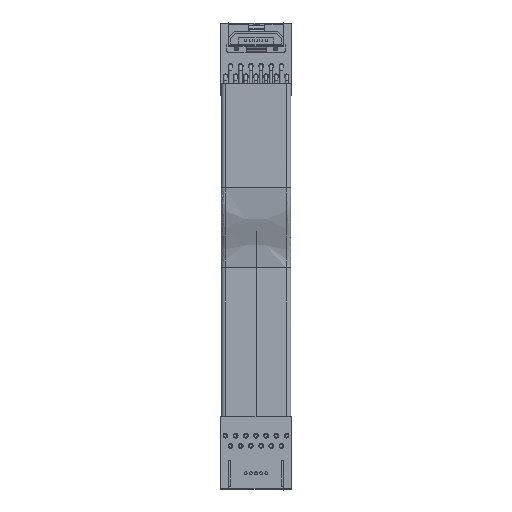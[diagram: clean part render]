
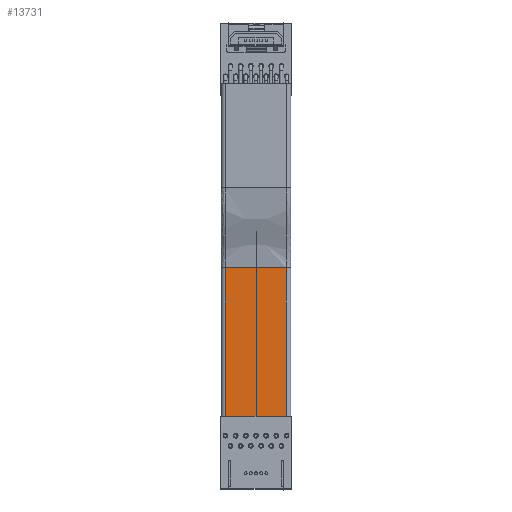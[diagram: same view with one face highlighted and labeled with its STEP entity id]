
A CAD part, top view. The second image highlights one B-rep face of the part: STEP entity #13731.
In plain terms, the highlighted free-form (B-spline) face has degree [3, 1] with [7, 2] control points.
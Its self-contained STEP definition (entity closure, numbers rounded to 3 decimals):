
#12067 = VERTEX_POINT('',#12068);
#12068 = CARTESIAN_POINT('',(0.569,22.977,
    -1.457));
#12150 = VERTEX_POINT('',#12151);
#12151 = CARTESIAN_POINT('',(8.189,22.977,
    -1.457));
#12163 = EDGE_CURVE('',#12067,#12150,#12164,.T.);
#12164 = LINE('',#12165,#12166);
#12165 = CARTESIAN_POINT('',(4.379,22.977,
    -1.457));
#12166 = VECTOR('',#12167,1.);
#12167 = DIRECTION('',(1.,0.,0.));
#13615 = VERTEX_POINT('',#13616);
#13616 = CARTESIAN_POINT('',(0.569,43.,-1.457));
#13623 = EDGE_CURVE('',#13615,#13624,#13626,.T.);
#13624 = VERTEX_POINT('',#13625);
#13625 = CARTESIAN_POINT('',(8.189,43.,-1.457));
#13626 = ( BOUNDED_CURVE() B_SPLINE_CURVE(3,(#13627,#13628,#13629,#13630
    ,#13631,#13632,#13633),.UNSPECIFIED.,.F.,.F.) 
B_SPLINE_CURVE_WITH_KNOTS((4,3,4),(0.505,0.943,1.),
.UNSPECIFIED.) CURVE() GEOMETRIC_REPRESENTATION_ITEM() 
RATIONAL_B_SPLINE_CURVE((1.,1.,1.,1.,0.333,0.333,1.)) 
REPRESENTATION_ITEM('') );
#13627 = CARTESIAN_POINT('',(0.569,43.,-1.457));
#13628 = CARTESIAN_POINT('',(3.109,43.,-1.457));
#13629 = CARTESIAN_POINT('',(5.649,43.,-1.457));
#13630 = CARTESIAN_POINT('',(8.189,43.,-1.457));
#13631 = CARTESIAN_POINT('',(9.189,43.,-1.457));
#13632 = CARTESIAN_POINT('',(9.189,43.,-2.457));
#13633 = CARTESIAN_POINT('',(8.189,43.,-2.457));
#13662 = EDGE_CURVE('',#12067,#13615,#13663,.T.);
#13663 = LINE('',#13664,#13665);
#13664 = CARTESIAN_POINT('',(0.569,32.989,
    -1.457));
#13665 = VECTOR('',#13666,1.);
#13666 = DIRECTION('',(0.,1.,0.));
#13708 = EDGE_CURVE('',#12150,#13624,#13709,.T.);
#13709 = LINE('',#13710,#13711);
#13710 = CARTESIAN_POINT('',(8.189,32.989,
    -1.457));
#13711 = VECTOR('',#13712,1.);
#13712 = DIRECTION('',(0.,1.,0.));
#13731 = ADVANCED_FACE('',(#13732),#13738,.T.);
#13732 = FACE_BOUND('',#13733,.T.);
#13733 = EDGE_LOOP('',(#13734,#13735,#13736,#13737));
#13734 = ORIENTED_EDGE('',*,*,#12163,.T.);
#13735 = ORIENTED_EDGE('',*,*,#13708,.T.);
#13736 = ORIENTED_EDGE('',*,*,#13623,.F.);
#13737 = ORIENTED_EDGE('',*,*,#13662,.F.);
#13738 = ( BOUNDED_SURFACE() B_SPLINE_SURFACE(3,1,(
    (#13739,#13740)
    ,(#13741,#13742)
    ,(#13743,#13744)
    ,(#13745,#13746)
    ,(#13747,#13748)
    ,(#13749,#13750)
    ,(#13751,#13752
)),.UNSPECIFIED.,.F.,.F.,.F.) B_SPLINE_SURFACE_WITH_KNOTS((4,3,4),(2,2),
  (0.505,0.943,1.),(0.,1.),.UNSPECIFIED.) 
GEOMETRIC_REPRESENTATION_ITEM() RATIONAL_B_SPLINE_SURFACE((
    (1.,1.)
    ,(1.,1.)
    ,(1.,1.)
    ,(1.,1.)
    ,(0.333,0.333)
    ,(0.333,0.333)
,(1.,1.))) REPRESENTATION_ITEM('') SURFACE() );
#13739 = CARTESIAN_POINT('',(0.569,22.977,
    -1.457));
#13740 = CARTESIAN_POINT('',(0.569,43.,-1.457));
#13741 = CARTESIAN_POINT('',(3.109,22.977,
    -1.457));
#13742 = CARTESIAN_POINT('',(3.109,43.,-1.457));
#13743 = CARTESIAN_POINT('',(5.649,22.977,
    -1.457));
#13744 = CARTESIAN_POINT('',(5.649,43.,-1.457));
#13745 = CARTESIAN_POINT('',(8.189,22.977,
    -1.457));
#13746 = CARTESIAN_POINT('',(8.189,43.,-1.457));
#13747 = CARTESIAN_POINT('',(9.189,22.977,
    -1.457));
#13748 = CARTESIAN_POINT('',(9.189,43.,-1.457));
#13749 = CARTESIAN_POINT('',(9.189,23.023,
    -2.457));
#13750 = CARTESIAN_POINT('',(9.189,43.,-2.457));
#13751 = CARTESIAN_POINT('',(8.189,23.023,
    -2.457));
#13752 = CARTESIAN_POINT('',(8.189,43.,-2.457));
